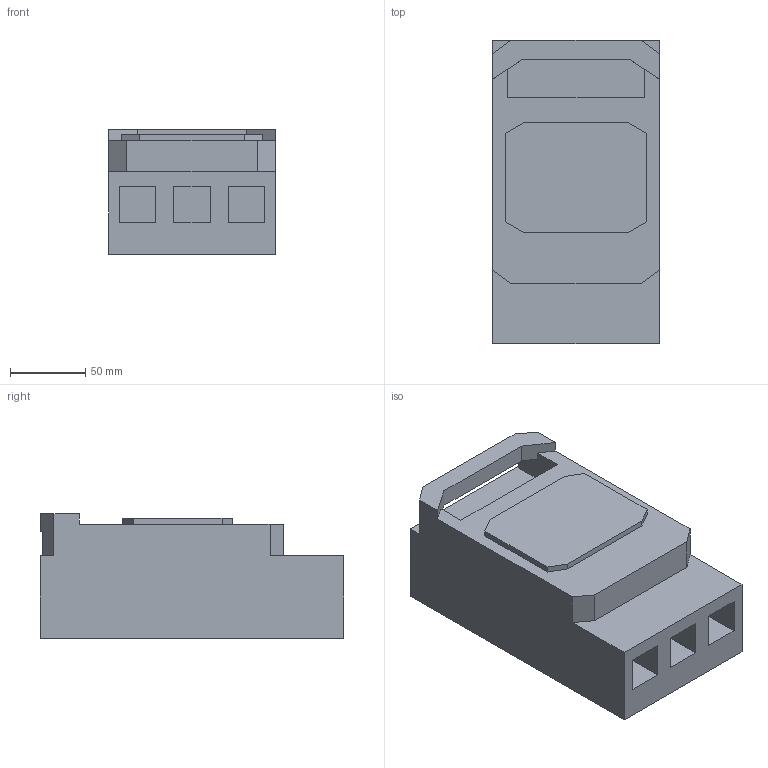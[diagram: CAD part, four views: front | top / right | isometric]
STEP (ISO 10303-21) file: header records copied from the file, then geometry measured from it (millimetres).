
FILE_DESCRIPTION (( 'STEP AP214' ), '1' );
FILE_NAME ('OptiBlock-00.STEP', '2023-05-03T13:25:52', ( '' ), ( '' ), 'SwSTEP 2.0', 'SolidWorks 2018', '' );
FILE_SCHEMA (( 'AUTOMOTIVE_DESIGN' ));
Length unit declared in the file: millimetre
Products named in the file (1): OptiBlock-00
Bounding box: 111 x 202 x 83 mm (x, y, z)
Volume: 1332228.6 mm3; surface area: 143371.8 mm2
Topology: 1 solids, 1 shells, 109 faces, 270 edges, 180 vertices
Faces by surface type: plane 81, cylinder 28
Entity records: 3258 total; most frequent: CARTESIAN_POINT 560, DIRECTION 546, ORIENTED_EDGE 540, EDGE_CURVE 270, VECTOR 214, LINE 214, VERTEX_POINT 180, AXIS2_PLACEMENT_3D 166
